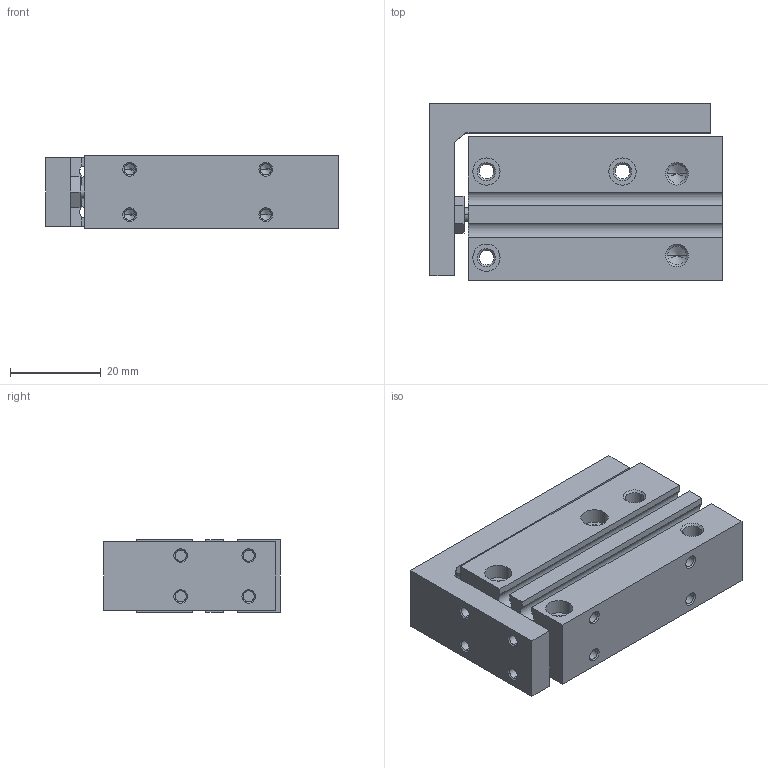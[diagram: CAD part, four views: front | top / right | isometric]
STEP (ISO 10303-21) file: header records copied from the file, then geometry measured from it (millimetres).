
FILE_DESCRIPTION (( 'STEP AP203' ), '1' );
FILE_NAME ('CXH6-25.STEP', '2020-04-16T18:02:08', ( '' ), ( '' ), 'SwSTEP 2.0', 'SolidWorks 2019', '' );
FILE_SCHEMA (( 'CONFIG_CONTROL_DESIGN' ));
Length unit declared in the file: millimetre
Products named in the file (1): CXH6-25
Bounding box: 64.5 x 39 x 16 mm (x, y, z)
Volume: 31139.1 mm3; surface area: 15583.6 mm2
Topology: 2 solids, 2 shells, 208 faces, 495 edges, 286 vertices
Faces by surface type: cone 88, cylinder 76, plane 44
Entity records: 6004 total; most frequent: DIRECTION 1093, CARTESIAN_POINT 1080, ORIENTED_EDGE 934, EDGE_CURVE 467, AXIS2_PLACEMENT_3D 421, VERTEX_POINT 286, EDGE_LOOP 253, VECTOR 251
